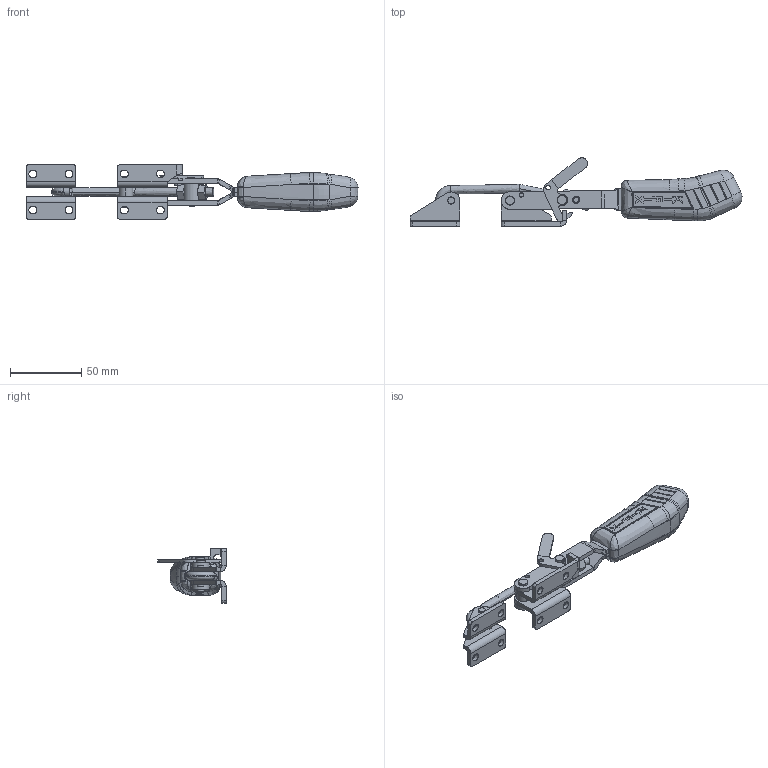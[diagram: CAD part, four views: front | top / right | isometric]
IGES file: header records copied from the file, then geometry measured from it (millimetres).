
Start section: SolidWorks IGES file using analytic representation for surfaces
Global section: file name: C:\Projetos\Grampos\KF-353\KF-353 DTR\KF-353 DTR.IGS; native system: SolidWorks 2013; preprocessor: SolidWorks 2013; author: Ricardo; date: 140821.163022; units: millimetre
Bounding box: 233.21 x 48.01 x 38.4 mm (x, y, z)
Surface area: 38323.8 mm2 (no closed solid volume)
Topology: 0 solids, 0 shells, 666 faces, 7317 edges, 7309 vertices
Faces by surface type: bspline 403, revolution 263
